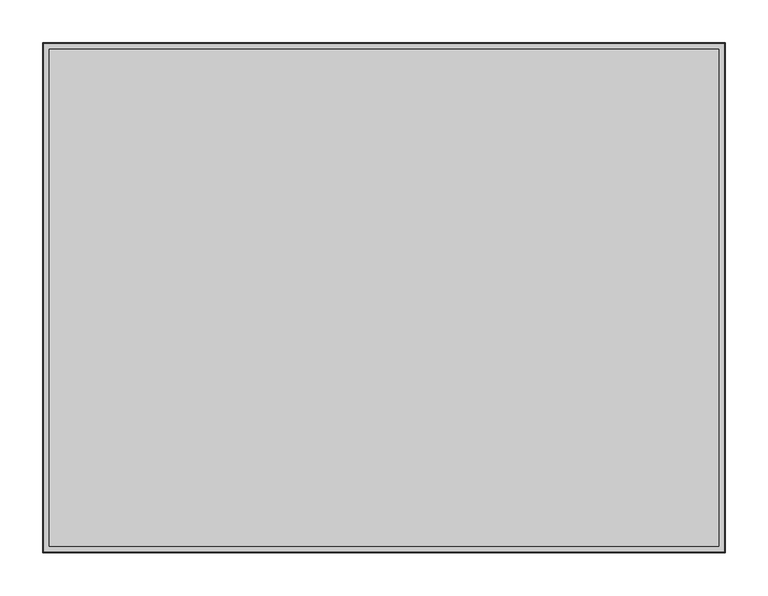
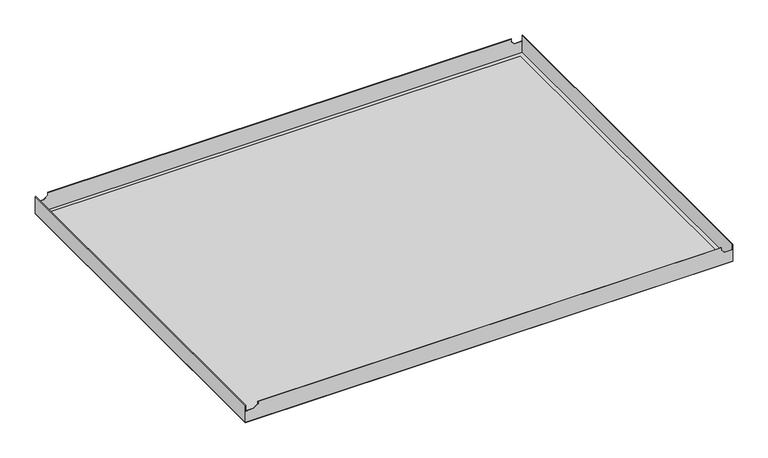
"""IFC4 building model written with IfcOpenShell, lengths in millimetres: proxy geometry, durlum_S1.12KD_panel : durlum_S1.12KD_panel_wall_length_cut."""

from ifc_helpers import new_model, si_unit, frame, origin, origin_with_axes, place, context, project, spatial, polyline, outline, extrude, faceted_brep, source, transform, mapped, element, save


def generic_models_7573e460(model_context):
    return source(origin(), model_context, "Body", "SolidModel", [
        faceted_brep([(-400.0, 299.0, 30.0), (-400.0, -299.0, 30.0), (-399.4, -299.0, 30.0), (-399.4, 299.0, 30.0), (400.0, -299.0, 30.0), (400.0, 299.0, 30.0), (399.4, 299.0, 30.0), (399.4, -299.0, 30.0), (-379.4, 299.0, 30.0), (-379.4, 298.4, 30.0), (381.4, 298.4, 30.0), (381.4, 299.0, 30.0), (-379.4, -298.4, 30.0), (-379.4, -299.0, 30.0), (381.4, -299.0, 30.0), (381.4, -298.4, 30.0), (400.0, 299.0, 0.6), (400.0, -299.0, 0.6), (-400.0, -299.0, 0.6), (-400.0, 299.0, 0.6), (399.4, 298.4, 0.6), (-399.4, 298.4, 0.6), (-399.4, -298.4, 0.6), (399.4, -298.4, 0.6), (-399.4, 299.0, 20.1669893), (-386.6658218, 299.0, 20.1669893), (-379.4, 299.0, 25.4328111), (381.4, 299.0, 25.4469988), (386.6800094, 299.0, 20.1669893), (399.4, 299.0, 20.1669893), (399.4, -299.0, 20.1669893), (386.6800094, -299.0, 20.1669893), (381.4, -299.0, 25.4469988), (-379.4, -299.0, 25.4328111), (-386.6658218, -299.0, 20.1669893), (-399.4, -299.0, 20.1669893), (399.4, 298.4, 20.1669893), (399.4, -298.4, 20.1669893), (-399.4, -298.4, 20.1669893), (-386.6658218, -298.4, 20.1669893), (-379.4, -298.4, 25.4328111), (381.4, -298.4, 25.4469988), (386.6800094, -298.4, 20.1669893), (-399.4, 298.4, 20.1669893), (386.6800094, 298.4, 20.1669893), (381.4, 298.4, 25.4469988), (-379.4, 298.4, 25.4328111), (-386.6658218, 298.4, 20.1669893)], [[[0, 1, 2, 3]], [[4, 5, 6, 7]], [[8, 9, 10, 11]], [[12, 13, 14, 15]], [[16, 17, 18, 19], [20, 21, 22, 23]], [[16, 19, 0, 3, 24, 25, 26, 8, 11, 27, 28, 29, 6, 5]], [[1, 0, 19, 18]], [[18, 17, 4, 7, 30, 31, 32, 14, 13, 33, 34, 35, 2, 1]], [[5, 4, 17, 16]], [[6, 29, 36, 20, 23, 37, 30, 7]], [[23, 22, 38, 39, 40, 12, 15, 41, 42, 37]], [[22, 21, 43, 24, 3, 2, 35, 38]], [[21, 20, 36, 44, 45, 10, 9, 46, 47, 43]], [[38, 35, 34, 39]], [[24, 43, 47, 25]], [[39, 34, 33, 40]], [[25, 47, 46, 26]], [[40, 33, 13, 12]], [[26, 46, 9, 8]], [[36, 29, 28, 44]], [[30, 37, 42, 31]], [[44, 28, 27, 45]], [[31, 42, 41, 32]], [[32, 41, 15, 14]], [[45, 27, 11, 10]]]),
        extrude(outline(polyline([(392.0, 291.0), (392.0, -291.0), (-392.0, -291.0), (-392.0, 291.0), (392.0, 291.0)])), frame((0.0, 0.0, 0.6), z_axis=(0.0, 0.0, 1.0), x_axis=(1.0, 0.0, 0.0)), (0.0, 0.0, 1.0), 0.6),
        extrude(outline(polyline([(400.0, 299.0), (400.0, -299.0), (-400.0, -299.0), (-400.0, 299.0), (400.0, 299.0)]), holes=[polyline([(392.0, 291.0), (-392.0, 291.0), (-392.0, -291.0), (392.0, -291.0), (392.0, 291.0)])]), origin_with_axes(), (0.0, 0.0, 1.0), 0.6),
        extrude(outline(polyline([(392.0, 291.0), (392.0, -291.0), (-392.0, -291.0), (-392.0, 291.0), (392.0, 291.0)])), origin_with_axes(), (0.0, 0.0, 1.0), 0.6),
    ])


if __name__ == "__main__":
    model = new_model("IFC4")
    model_context = context("Model", 3, world=origin())
    ifc_project = project(units=[si_unit("LENGTHUNIT", "METRE", prefix="MILLI")], contexts=[model_context])
    site = spatial("IfcSite", under=ifc_project)
    building = spatial("IfcBuilding", under=site)
    placement = place(None, origin())
    generic_models_shape = generic_models_7573e460(model_context)
    element("IfcBuildingElementProxy", 1, Name="durlum_S1.12KD_panel : durlum_S1.12KD_panel_wall_length_cut", ObjectType="durlum_S1.12KD_panel : durlum_S1.12KD_panel_wall_length_cut", at=placement, inside=building, context=model_context, shape_type="MappedRepresentation", body=[
        mapped(generic_models_shape, transform((0.0, 0.0, 0.0), x_axis=(1.0, 0.0, 0.0), y_axis=(0.0, 1.0, 0.0), z_axis=(0.0, 0.0, 1.0))),
    ])
    save(model, "model.ifc")
